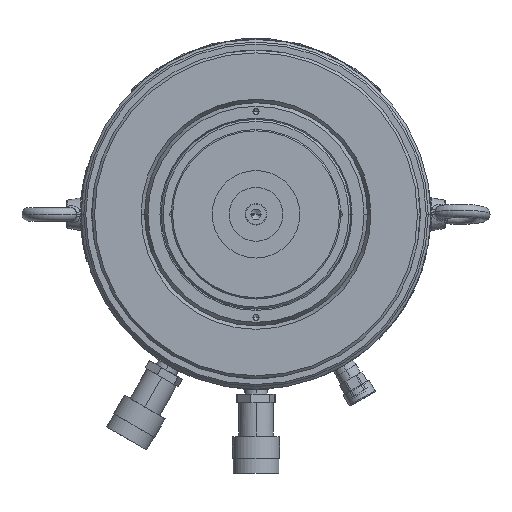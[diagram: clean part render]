
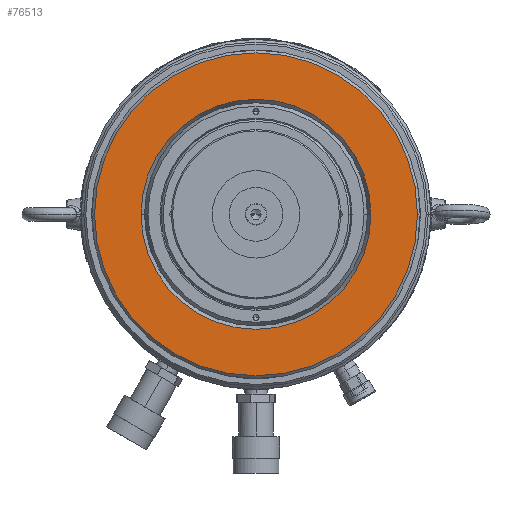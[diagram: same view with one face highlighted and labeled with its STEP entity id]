
A CAD part, front view. The second image highlights one B-rep face of the part: STEP entity #76513.
In plain terms, the highlighted planar face has unit normal (0, -1, 0).
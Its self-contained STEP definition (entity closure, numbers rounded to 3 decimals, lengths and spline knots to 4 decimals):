
#21747=CARTESIAN_POINT('',(0.,-1.9685,0.));
#21748=DIRECTION('',(0.,-1.,0.));
#21749=DIRECTION('',(-1.,0.,0.));
#21750=AXIS2_PLACEMENT_3D('',#21747,#21748,#21749);
#21752=CARTESIAN_POINT('',(0.,-1.9685,0.));
#21753=DIRECTION('',(0.,-1.,0.));
#21754=DIRECTION('',(1.,0.,0.));
#21755=AXIS2_PLACEMENT_3D('',#21752,#21753,#21754);
#21757=CARTESIAN_POINT('',(0.,-1.9685,0.));
#21758=DIRECTION('',(0.,1.,0.));
#21759=DIRECTION('',(1.,0.,0.));
#21760=AXIS2_PLACEMENT_3D('',#21757,#21758,#21759);
#21762=CARTESIAN_POINT('',(0.,-1.9685,0.));
#21763=DIRECTION('',(0.,1.,0.));
#21764=DIRECTION('',(-1.,0.,0.));
#21765=AXIS2_PLACEMENT_3D('',#21762,#21763,#21764);
#64564=CARTESIAN_POINT('',(3.3647,-1.9685,0.));
#64565=CARTESIAN_POINT('',(-3.3647,-1.9685,0.));
#64566=VERTEX_POINT('',#64564);
#64567=VERTEX_POINT('',#64565);
#64572=CARTESIAN_POINT('',(-4.7244,-1.9685,0.));
#64573=CARTESIAN_POINT('',(4.7244,-1.9685,0.));
#64574=VERTEX_POINT('',#64572);
#64575=VERTEX_POINT('',#64573);
#76497=CARTESIAN_POINT('',(0.,-1.9685,0.));
#76498=DIRECTION('',(0.,1.,0.));
#76499=DIRECTION('',(-1.,0.,0.));
#76500=AXIS2_PLACEMENT_3D('',#76497,#76498,#76499);
#76501=PLANE('',#76500);
#76503=ORIENTED_EDGE('',*,*,#76502,.F.);
#76504=ORIENTED_EDGE('',*,*,#76487,.F.);
#76505=EDGE_LOOP('',(#76503,#76504));
#76506=FACE_OUTER_BOUND('',#76505,.F.);
#76508=ORIENTED_EDGE('',*,*,#76507,.F.);
#76510=ORIENTED_EDGE('',*,*,#76509,.F.);
#76511=EDGE_LOOP('',(#76508,#76510));
#76512=FACE_BOUND('',#76511,.F.);
#76513=ADVANCED_FACE('',(#76506,#76512),#76501,.F.);
#21751=CIRCLE('',#21750,4.7244);
#21756=CIRCLE('',#21755,4.7244);
#21761=CIRCLE('',#21760,3.3647);
#21766=CIRCLE('',#21765,3.3647);
#76487=EDGE_CURVE('',#64575,#64574,#21756,.T.);
#76502=EDGE_CURVE('',#64574,#64575,#21751,.T.);
#76507=EDGE_CURVE('',#64566,#64567,#21761,.T.);
#76509=EDGE_CURVE('',#64567,#64566,#21766,.T.);
